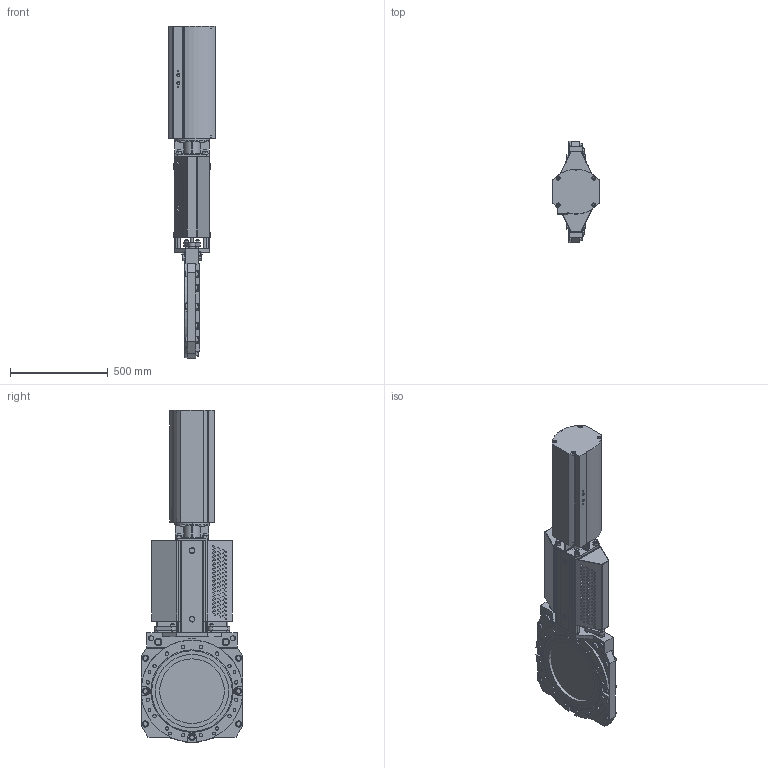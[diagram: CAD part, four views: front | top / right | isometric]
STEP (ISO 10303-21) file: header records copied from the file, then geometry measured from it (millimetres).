
FILE_DESCRIPTION(('STEP AP203'),'1');
FILE_NAME('F:/Alexander/tillfällig/RKO-DN350-EC200.stp','2013-04-09T11:12:41',(' '),(' '),'Spatial InterOp 3D',' ',' ');
FILE_SCHEMA(('CONFIG_CONTROL_DESIGN'));
Length unit declared in the file: millimetre
Products named in the file (3): 1; 2; 3
Bounding box: 236 x 520 x 1696 mm (x, y, z)
Volume: 43228952.6 mm3; surface area: 3455441.2 mm2
Topology: 3 solids, 47 shells, 2533 faces, 6695 edges, 4457 vertices
Faces by surface type: plane 1190, cylinder 871, cone 434, torus 38
Full cylindrical faces by diameter (mm): 5 x2, 8.376 x4, 9.87 x10, 11 x10, 12 x4, 12.793 x4, 13.835 x4, 14 x26, 14.5 x8, 15 x2, 16 x7, 17.385 x14, 17.5 x22, 21 x8, 21.5 x4, 22.06 x2, 23.79 x6, 26 x6, 27 x4, 30 x4, 31.69 x7, 38.69 x1, 40 x1, 342 x2, 362.341 x1, 372 x1, 374 x2, 376 x2, 403 x1, 419 x1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
Entity records: 79417 total; most frequent: CARTESIAN_POINT 16411, DIRECTION 13471, ORIENTED_EDGE 12772, EDGE_CURVE 6386, AXIS2_PLACEMENT_3D 5239, VERTEX_POINT 4439, EDGE_LOOP 3325, LINE 2993
